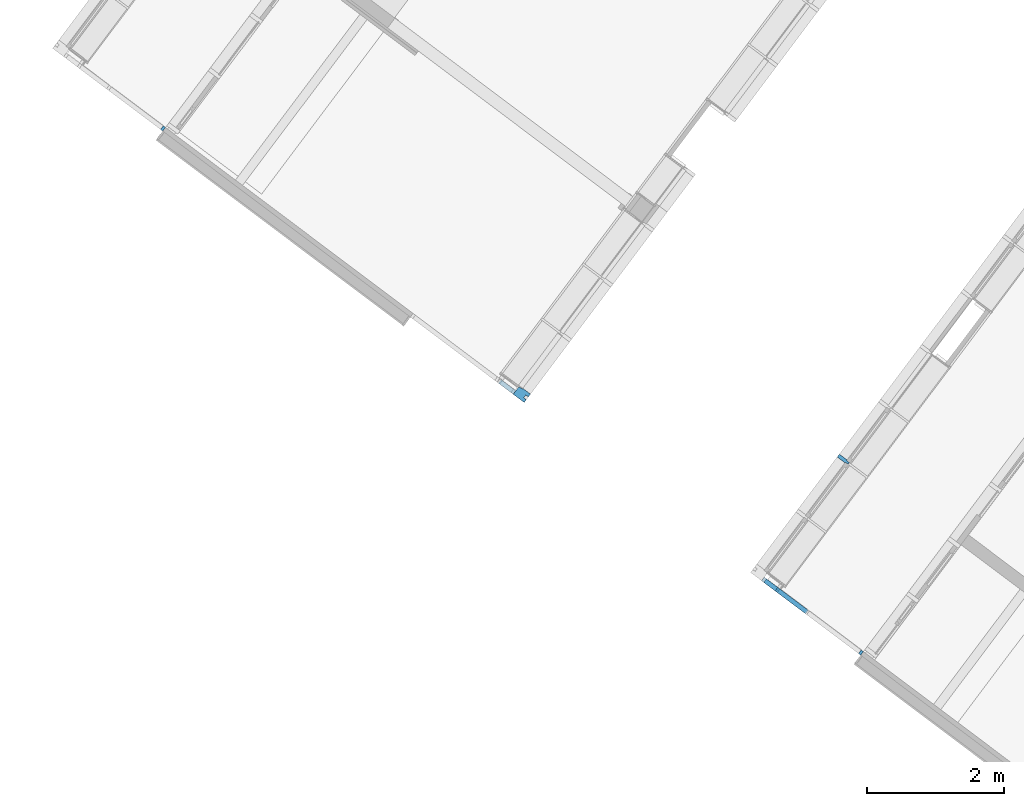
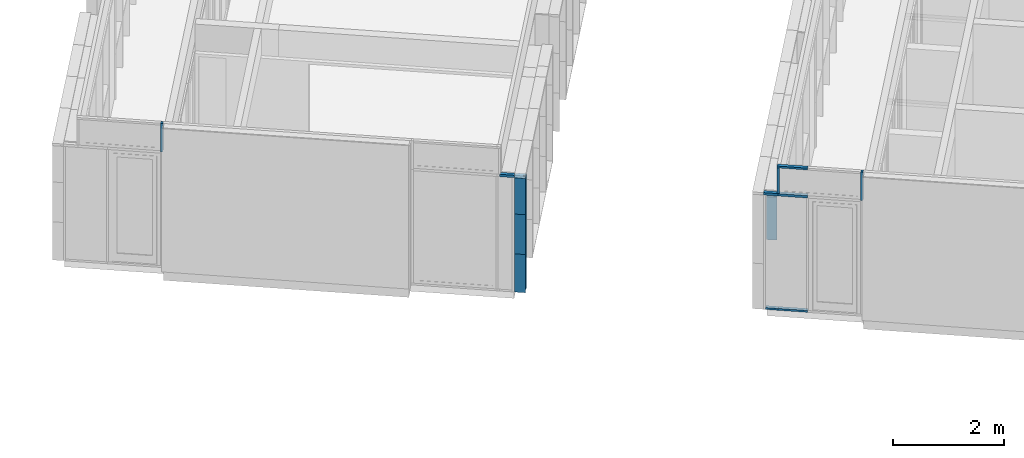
# One storey, part 75 of 243: 13 members, 5 elements without a shape of their own.
"""IFC2X3 building model written with IfcOpenShell, lengths in metres."""

from ifc_helpers import new_model, entity, si_unit, converted_unit, derived_unit, direction, frame, frame_2d, origin, place, context, subcontext, project, spatial, polyline, rectangle, outline, extrude, source, transform, mapped, material, type_object, type_shapes, element, aggregate, save


model = new_model("IFC2X3")

# Units and contexts
model_context = context("Model", 3, precision=1e-05, world=origin(), true_north=direction((6.123031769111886e-17, 1.0)))
body_context = subcontext(model_context, "Body", "Model", "MODEL_VIEW")
ifc_project = project(units=[si_unit("LENGTHUNIT", "METRE"), si_unit("AREAUNIT", "SQUARE_METRE"), si_unit("VOLUMEUNIT", "CUBIC_METRE"), converted_unit("PLANEANGLEUNIT", "DEGREE", entity("IfcRatioMeasure", 0.017453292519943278), si_unit("PLANEANGLEUNIT", "RADIAN"), dimensions=[0, 0, 0, 0, 0, 0, 0]), si_unit("MASSUNIT", "GRAM", prefix="KILO"), derived_unit("MASSDENSITYUNIT", [(si_unit("MASSUNIT", "GRAM", prefix="KILO"), 1), (si_unit("LENGTHUNIT", "METRE"), -3)]), derived_unit("IONCONCENTRATIONUNIT", [(si_unit("MASSUNIT", "GRAM", prefix="KILO"), 1), (si_unit("LENGTHUNIT", "METRE"), -3)]), derived_unit("MOMENTOFINERTIAUNIT", [(si_unit("LENGTHUNIT", "METRE"), 4)]), si_unit("TIMEUNIT", "SECOND"), si_unit("FREQUENCYUNIT", "HERTZ"), si_unit("THERMODYNAMICTEMPERATUREUNIT", "DEGREE_CELSIUS"), derived_unit("THERMALTRANSMITTANCEUNIT", [(si_unit("MASSUNIT", "GRAM", prefix="KILO"), 1), (si_unit("THERMODYNAMICTEMPERATUREUNIT", "KELVIN"), -1), (si_unit("TIMEUNIT", "SECOND"), -3)]), derived_unit("THERMALCONDUCTANCEUNIT", [(si_unit("MASSUNIT", "GRAM", prefix="KILO"), 1), (si_unit("THERMODYNAMICTEMPERATUREUNIT", "KELVIN"), -1), (si_unit("TIMEUNIT", "SECOND"), -3), (si_unit("LENGTHUNIT", "METRE"), 1)]), derived_unit("VOLUMETRICFLOWRATEUNIT", [(si_unit("LENGTHUNIT", "METRE"), 3), (si_unit("TIMEUNIT", "SECOND"), -1)]), derived_unit("MASSFLOWRATEUNIT", [(si_unit("MASSUNIT", "GRAM", prefix="KILO"), 1), (si_unit("TIMEUNIT", "SECOND"), -1)]), derived_unit("ROTATIONALFREQUENCYUNIT", [(si_unit("TIMEUNIT", "SECOND"), -1)]), si_unit("ELECTRICCURRENTUNIT", "AMPERE"), si_unit("ELECTRICVOLTAGEUNIT", "VOLT"), si_unit("POWERUNIT", "WATT"), si_unit("FORCEUNIT", "NEWTON", prefix="KILO"), si_unit("ILLUMINANCEUNIT", "LUX"), si_unit("LUMINOUSFLUXUNIT", "LUMEN"), si_unit("LUMINOUSINTENSITYUNIT", "CANDELA"), derived_unit("USERDEFINED", [(si_unit("MASSUNIT", "GRAM", prefix="KILO"), -1), (si_unit("LENGTHUNIT", "METRE"), -2), (si_unit("TIMEUNIT", "SECOND"), 3), (si_unit("LUMINOUSFLUXUNIT", "LUMEN"), 1)]), derived_unit("USERDEFINED", [(si_unit("MASSUNIT", "GRAM", prefix="KILO"), 1), (si_unit("TIMEUNIT", "SECOND"), -3), (si_unit("LENGTHUNIT", "METRE"), 3), (si_unit("ELECTRICCURRENTUNIT", "AMPERE"), -2)]), derived_unit("SOUNDPOWERUNIT", [(si_unit("MASSUNIT", "GRAM", prefix="KILO"), 1), (si_unit("TIMEUNIT", "SECOND"), -3), (si_unit("LENGTHUNIT", "METRE"), 2)]), derived_unit("SOUNDPRESSUREUNIT", [(si_unit("MASSUNIT", "GRAM", prefix="KILO"), 1), (si_unit("LENGTHUNIT", "METRE"), -1), (si_unit("TIMEUNIT", "SECOND"), -2)]), derived_unit("LINEARVELOCITYUNIT", [(si_unit("LENGTHUNIT", "METRE"), 1), (si_unit("TIMEUNIT", "SECOND"), -1)]), si_unit("PRESSUREUNIT", "PASCAL"), derived_unit("USERDEFINED", [(si_unit("MASSUNIT", "GRAM", prefix="KILO"), 1), (si_unit("LENGTHUNIT", "METRE"), -2), (si_unit("TIMEUNIT", "SECOND"), -2)]), derived_unit("LINEARFORCEUNIT", [(si_unit("MASSUNIT", "GRAM", prefix="KILO"), 1), (si_unit("TIMEUNIT", "SECOND"), -2)]), derived_unit("PLANARFORCEUNIT", [(si_unit("MASSUNIT", "GRAM", prefix="KILO"), 1), (si_unit("LENGTHUNIT", "METRE"), -1), (si_unit("TIMEUNIT", "SECOND"), -2)]), derived_unit("SPECIFICHEATCAPACITYUNIT", [(si_unit("THERMODYNAMICTEMPERATUREUNIT", "KELVIN"), -1), (si_unit("LENGTHUNIT", "METRE"), 2), (si_unit("TIMEUNIT", "SECOND"), -2)]), derived_unit("HEATINGVALUEUNIT", [(si_unit("LENGTHUNIT", "METRE"), 2), (si_unit("TIMEUNIT", "SECOND"), -2)]), derived_unit("VAPORPERMEABILITYUNIT", [(si_unit("LENGTHUNIT", "METRE"), -1), (si_unit("TIMEUNIT", "SECOND"), 1)]), derived_unit("DYNAMICVISCOSITYUNIT", [(si_unit("MASSUNIT", "GRAM", prefix="KILO"), 1), (si_unit("TIMEUNIT", "SECOND"), -1), (si_unit("LENGTHUNIT", "METRE"), -1)]), derived_unit("THERMALEXPANSIONCOEFFICIENTUNIT", [(si_unit("THERMODYNAMICTEMPERATUREUNIT", "KELVIN"), -1)]), derived_unit("MODULUSOFELASTICITYUNIT", [(si_unit("MASSUNIT", "GRAM", prefix="KILO"), 1), (si_unit("LENGTHUNIT", "METRE"), -1), (si_unit("TIMEUNIT", "SECOND"), -2)]), derived_unit("ISOTHERMALMOISTURECAPACITYUNIT", [(si_unit("LENGTHUNIT", "METRE"), 3), (si_unit("MASSUNIT", "GRAM", prefix="KILO"), -1)]), derived_unit("MOISTUREDIFFUSIVITYUNIT", [(si_unit("TIMEUNIT", "SECOND"), -1), (si_unit("LENGTHUNIT", "METRE"), 2)])], contexts=[model_context])

# Site, building, storey
site_placement = place(None, frame((0.0, 0.0, 235.0), z_axis=(0.0, 0.0, 1.0), x_axis=(-0.7996477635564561, 0.6004693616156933, 0.0)))
site = spatial("IfcSite", under=ifc_project, at=site_placement, Name="Default", CompositionType="ELEMENT")
building_placement = place(site_placement, origin())
building = spatial("IfcBuilding", under=site, at=building_placement, CompositionType="ELEMENT")
storey_placement = place(building_placement, origin())
storey = spatial("IfcBuildingStorey", under=building, at=storey_placement, Name="P0- Escola", CompositionType="ELEMENT", Elevation=0.0)

# Curtain wall, members
curtain_wall_type_1 = type_object("IfcCurtainWallType", Name="Muro cortina:MC- EXT- MC2", PredefinedType="NOTDEFINED")
curtain_wall_1_placement = place(storey_placement, origin())
curtain_wall_1 = element("IfcCurtainWall", 1, at=curtain_wall_1_placement, inside=storey, type_object=curtain_wall_type_1, Name="Muro cortina:MC- EXT- MC2", ObjectType="Muro cortina:MC- EXT- MC2")
ifc_material = material(Name="_Alumini- T1- Perfil")
member_type_1 = type_object("IfcMemberType", Name="Montante rectangular:MC- Alu- 140x52,5 cm- Fa patis- Cantonada", PredefinedType="MULLION", material=ifc_material)
shared_shape_1 = source(origin(), body_context, "Body", "SweptSolid", [
    extrude(outline(polyline([(-0.09566666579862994, -0.05708333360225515), (0.04333333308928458, -0.05708333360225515), (0.04333333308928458, -0.0458333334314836), (0.09433333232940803, -0.04583333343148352), (0.09433333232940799, -0.03083333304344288), (0.10433333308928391, -0.03083333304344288), (0.10433333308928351, 0.09541666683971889), (-0.09566666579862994, 0.09541666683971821), (-0.09566666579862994, 0.042916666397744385), (-0.05066666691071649, 0.042916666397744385), (-0.050666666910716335, -0.004583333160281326), (-0.09566666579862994, -0.004583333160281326), (-0.09566666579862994, -0.05708333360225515)])), frame((-0.09541666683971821, 0.04433333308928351, -0.8400000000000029), z_axis=(0.0, 0.0, 1.0), x_axis=(0.0, -1.0, 0.0)), (0.0, 0.0, 1.0), 0.8400000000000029),
])
type_shapes(member_type_1, [shared_shape_1])
member_1_placement = place(curtain_wall_1_placement, frame((41.04514768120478, -20.28894175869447, 0.8200000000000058), z_axis=(0.0, 0.0, 1.0), x_axis=(0.0, 1.0, 0.0)))
member_1 = element("IfcMember", 2, at=member_1_placement, type_object=member_type_1, material=ifc_material, Name="Montante rectangular:MC- Alu- 140x52,5 cm- Fa patis- Cantonada", ObjectType="Montante rectangular:MC- Alu- 140x52,5 cm- Fa patis- Cantonada", context=body_context, shape_type="MappedRepresentation", body=[
    mapped(shared_shape_1, transform((0.0, 0.0, 0.0), scale=1.0)),
])
member_type_2 = type_object("IfcMemberType", Name="Montante rectangular:MC- Alu- 140x52,5 cm- Fa patis- Cantonada", PredefinedType="MULLION", material=ifc_material)
shared_shape_2 = source(origin(), body_context, "Body", "SweptSolid", [
    extrude(outline(polyline([(-0.09566666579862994, -0.05708333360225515), (0.04333333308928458, -0.05708333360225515), (0.04333333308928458, -0.0458333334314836), (0.09433333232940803, -0.04583333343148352), (0.09433333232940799, -0.03083333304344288), (0.10433333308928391, -0.03083333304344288), (0.10433333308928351, 0.09541666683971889), (-0.09566666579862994, 0.09541666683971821), (-0.09566666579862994, 0.042916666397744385), (-0.05066666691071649, 0.042916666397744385), (-0.050666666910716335, -0.004583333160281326), (-0.09566666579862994, -0.004583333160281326), (-0.09566666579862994, -0.05708333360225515)])), frame((-0.09541666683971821, 0.04433333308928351, -0.7974999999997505), z_axis=(0.0, 0.0, 1.0), x_axis=(0.0, -1.0, 0.0)), (0.0, 0.0, 1.0), 0.7974999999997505),
])
type_shapes(member_type_2, [shared_shape_2])
member_2_placement = place(curtain_wall_1_placement, frame((41.04514768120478, -20.28894175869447, 2.4924999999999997), z_axis=(0.0, 0.0, 1.0), x_axis=(0.0, 1.0, 0.0)))
member_2 = element("IfcMember", 3, at=member_2_placement, type_object=member_type_2, material=ifc_material, Name="Montante rectangular:MC- Alu- 140x52,5 cm- Fa patis- Cantonada", ObjectType="Montante rectangular:MC- Alu- 140x52,5 cm- Fa patis- Cantonada", context=body_context, shape_type="MappedRepresentation", body=[
    mapped(shared_shape_2, transform((0.0, 0.0, 0.0), scale=1.0)),
])
member_type_3 = type_object("IfcMemberType", Name="Montante rectangular:MC- Alu- 140x52,5 cm- Fa patis- Cantonada", PredefinedType="MULLION", material=ifc_material)
shared_shape_3 = source(origin(), body_context, "Body", "SweptSolid", [
    extrude(outline(polyline([(-0.09566666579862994, -0.05708333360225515), (0.04333333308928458, -0.05708333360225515), (0.04333333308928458, -0.0458333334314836), (0.09433333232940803, -0.04583333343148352), (0.09433333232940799, -0.03083333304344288), (0.10433333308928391, -0.03083333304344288), (0.10433333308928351, 0.09541666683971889), (-0.09566666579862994, 0.09541666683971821), (-0.09566666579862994, 0.042916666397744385), (-0.05066666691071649, 0.042916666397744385), (-0.050666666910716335, -0.004583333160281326), (-0.09566666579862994, -0.004583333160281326), (-0.09566666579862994, -0.05708333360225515)])), frame((-0.09541666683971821, 0.04433333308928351, -0.8750000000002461), z_axis=(0.0, 0.0, 1.0), x_axis=(0.0, -1.0, 0.0)), (0.0, 0.0, 1.0), 0.8750000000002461),
])
type_shapes(member_type_3, [shared_shape_3])
member_3_placement = place(curtain_wall_1_placement, frame((41.04514768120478, -20.28894175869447, 1.6950000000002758), z_axis=(0.0, 0.0, 1.0), x_axis=(0.0, 1.0, 0.0)))
member_3 = element("IfcMember", 4, at=member_3_placement, type_object=member_type_3, material=ifc_material, Name="Montante rectangular:MC- Alu- 140x52,5 cm- Fa patis- Cantonada", ObjectType="Montante rectangular:MC- Alu- 140x52,5 cm- Fa patis- Cantonada", context=body_context, shape_type="MappedRepresentation", body=[
    mapped(shared_shape_3, transform((0.0, 0.0, 0.0), scale=1.0)),
])
aggregate(curtain_wall_1, [member_1, member_2, member_3])

# Curtain wall, member
curtain_wall_type_2 = type_object("IfcCurtainWallType", Name="Muro cortina:MC- EXT- AL1- Fa porxo", PredefinedType="NOTDEFINED")
curtain_wall_2_placement = place(storey_placement, origin())
curtain_wall_2 = element("IfcCurtainWall", 5, at=curtain_wall_2_placement, inside=storey, type_object=curtain_wall_type_2, Name="Muro cortina:MC- EXT- AL1- Fa porxo", ObjectType="Muro cortina:MC- EXT- AL1- Fa porxo")
member_type_4 = type_object("IfcMemberType", Name="Montante rectangular:MC- Alu- 65x41 cm- Fa Porxo- Centre", PredefinedType="MULLION", material=ifc_material)
shared_shape_4 = source(origin(), body_context, "Body", "SweptSolid", [
    extrude(rectangle(XDim=0.06500000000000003, YDim=0.041000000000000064, at=frame_2d((3.469446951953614e-18, -5.204170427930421e-18), x_axis=(1.0, 0.0))), frame((-0.020499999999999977, -0.032499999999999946, -0.2256666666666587), z_axis=(0.0, 0.0, 1.0), x_axis=(0.0, -1.0, 0.0)), (0.0, 0.0, 1.0), 0.22566666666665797),
])
type_shapes(member_type_4, [shared_shape_4])
member_4_placement = place(curtain_wall_2_placement, frame((36.54414768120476, -20.28894175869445, -0.020000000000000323), z_axis=(1.0, 0.0, 0.0), x_axis=(0.0, 0.0, -1.0)))
member_4 = element("IfcMember", 6, at=member_4_placement, type_object=member_type_4, material=ifc_material, Name="Montante rectangular:MC- Alu- 65x41 cm- Fa Porxo- Centre", ObjectType="Montante rectangular:MC- Alu- 65x41 cm- Fa Porxo- Centre", context=body_context, shape_type="MappedRepresentation", body=[
    mapped(shared_shape_4, transform((0.0, 0.0, 0.0), scale=1.0)),
])

curtain_wall_3_placement = place(storey_placement, origin())
curtain_wall_3 = element("IfcCurtainWall", 7, at=curtain_wall_3_placement, inside=storey, type_object=curtain_wall_type_2, Name="Muro cortina:MC- EXT- AL1- Fa porxo", ObjectType="Muro cortina:MC- EXT- AL1- Fa porxo")
member_type_5 = type_object("IfcMemberType", Name="Montante rectangular:MC- Alu- 65x41 cm- Fa Porxo- Centre", PredefinedType="MULLION", material=ifc_material)
shared_shape_5 = source(origin(), body_context, "Body", "SweptSolid", [
    extrude(rectangle(XDim=0.06500000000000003, YDim=0.041000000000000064, at=frame_2d((0.0, -8.673617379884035e-18), x_axis=(1.0, 0.0))), frame((-0.020500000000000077, -0.032499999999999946, -0.6312500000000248), z_axis=(0.0, 0.0, 1.0), x_axis=(0.0, -1.0, 0.0)), (0.0, 0.0, 1.0), 0.6312500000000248),
])
type_shapes(member_type_5, [shared_shape_5])
member_5_placement = place(curtain_wall_3_placement, frame((47.48014768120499, -20.288941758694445, 2.51875), z_axis=(0.0, 0.0, -1.0), x_axis=(-1.0, 0.0, 0.0)))
member_5 = element("IfcMember", 8, at=member_5_placement, type_object=member_type_5, material=ifc_material, Name="Montante rectangular:MC- Alu- 65x41 cm- Fa Porxo- Centre", ObjectType="Montante rectangular:MC- Alu- 65x41 cm- Fa Porxo- Centre", context=body_context, shape_type="MappedRepresentation", body=[
    mapped(shared_shape_5, transform((0.0, 0.0, 0.0), scale=1.0)),
])
aggregate(curtain_wall_3, [member_5])

# Member
member_6_placement = place(curtain_wall_2_placement, frame((34.780147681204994, -20.288941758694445, 2.51875), z_axis=(0.0, 0.0, -1.0), x_axis=(-1.0, 0.0, 0.0)))
member_6 = element("IfcMember", 9, at=member_6_placement, type_object=member_type_5, material=ifc_material, Name="Montante rectangular:MC- Alu- 65x41 cm- Fa Porxo- Centre", ObjectType="Montante rectangular:MC- Alu- 65x41 cm- Fa Porxo- Centre", context=body_context, shape_type="MappedRepresentation", body=[
    mapped(shared_shape_5, transform((0.0, 0.0, 0.0), scale=1.0)),
])

member_type_6 = type_object("IfcMemberType", Name="Montante rectangular:MC- Alu- 65x52,5 cm- Fa Porxo- Centre", PredefinedType="MULLION", material=ifc_material)
shared_shape_6 = source(origin(), body_context, "Body", "SweptSolid", [
    extrude(rectangle(XDim=0.06500000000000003, YDim=0.05300000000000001, at=frame_2d((3.469446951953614e-18, 3.469446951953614e-18), x_axis=(1.0, 0.0))), frame((0.0, -0.03249999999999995, -0.266666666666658), z_axis=(0.0, 0.0, 1.0), x_axis=(0.0, -1.0, 0.0)), (0.0, 0.0, 1.0), 0.266666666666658),
])
type_shapes(member_type_6, [shared_shape_6])
member_7_placement = place(curtain_wall_2_placement, frame((36.31848101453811, -20.28894175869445, 2.51875), z_axis=(-1.0, 0.0, 0.0), x_axis=(0.0, 0.0, 1.0)))
member_7 = element("IfcMember", 10, at=member_7_placement, type_object=member_type_6, material=ifc_material, Name="Montante rectangular:MC- Alu- 65x52,5 cm- Fa Porxo- Centre", ObjectType="Montante rectangular:MC- Alu- 65x52,5 cm- Fa Porxo- Centre", context=body_context, shape_type="MappedRepresentation", body=[
    mapped(shared_shape_6, transform((0.0, 0.0, 0.0), scale=1.0)),
])

member_type_7 = type_object("IfcMemberType", Name="Montante rectangular:MC- Alu- 65x41 cm- Fa Porxo- Centre", PredefinedType="MULLION", material=ifc_material)
shared_shape_7 = source(origin(), body_context, "Body", "SweptSolid", [
    extrude(rectangle(XDim=0.06500000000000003, YDim=0.041000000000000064, at=frame_2d((0.0, -8.673617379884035e-18), x_axis=(1.0, 0.0))), frame((-0.020500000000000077, -0.032499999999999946, -0.5538333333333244), z_axis=(0.0, 0.0, 1.0), x_axis=(0.0, -1.0, 0.0)), (0.0, 0.0, 1.0), 0.5538333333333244),
])
type_shapes(member_type_7, [shared_shape_7])
member_8_placement = place(curtain_wall_2_placement, frame((35.78514768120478, -20.28894175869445, 3.150000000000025), z_axis=(-1.0, 0.0, 0.0), x_axis=(0.0, 0.0, 1.0)))
member_8 = element("IfcMember", 11, at=member_8_placement, type_object=member_type_7, material=ifc_material, Name="Montante rectangular:MC- Alu- 65x41 cm- Fa Porxo- Centre", ObjectType="Montante rectangular:MC- Alu- 65x41 cm- Fa Porxo- Centre", context=body_context, shape_type="MappedRepresentation", body=[
    mapped(shared_shape_7, transform((0.0, 0.0, 0.0), scale=1.0)),
])

member_type_8 = type_object("IfcMemberType", Name="Montante rectangular:MC- Alu- 65x41 cm- Fa Porxo- Centre", PredefinedType="MULLION", material=ifc_material)
shared_shape_8 = source(origin(), body_context, "Body", "SweptSolid", [
    extrude(rectangle(XDim=0.06500000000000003, YDim=0.041000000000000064, at=frame_2d((3.469446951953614e-18, -5.204170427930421e-18), x_axis=(1.0, 0.0))), frame((-0.020499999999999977, -0.032499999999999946, -0.5333333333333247), z_axis=(0.0, 0.0, 1.0), x_axis=(0.0, -1.0, 0.0)), (0.0, 0.0, 1.0), 0.5333333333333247),
])
type_shapes(member_type_8, [shared_shape_8])
member_9_placement = place(curtain_wall_2_placement, frame((36.31848101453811, -20.28894175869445, -0.02000000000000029), z_axis=(1.0, 0.0, 0.0), x_axis=(0.0, 0.0, -1.0)))
member_9 = element("IfcMember", 12, at=member_9_placement, type_object=member_type_8, material=ifc_material, Name="Montante rectangular:MC- Alu- 65x41 cm- Fa Porxo- Centre", ObjectType="Montante rectangular:MC- Alu- 65x41 cm- Fa Porxo- Centre", context=body_context, shape_type="MappedRepresentation", body=[
    mapped(shared_shape_8, transform((0.0, 0.0, 0.0), scale=1.0)),
])

member_type_9 = type_object("IfcMemberType", Name="Montante rectangular:MC- Alu- 65x52,5 cm- Fa Porxo- Centre", PredefinedType="MULLION", material=ifc_material)
shared_shape_9 = source(origin(), body_context, "Body", "SweptSolid", [
    extrude(rectangle(XDim=0.06500000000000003, YDim=0.05300000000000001, at=frame_2d((3.469446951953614e-18, 3.469446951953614e-18), x_axis=(1.0, 0.0))), frame((0.0, -0.03249999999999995, -0.5333333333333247), z_axis=(0.0, 0.0, 1.0), x_axis=(0.0, -1.0, 0.0)), (0.0, 0.0, 1.0), 0.5333333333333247),
])
type_shapes(member_type_9, [shared_shape_9])
member_10_placement = place(curtain_wall_2_placement, frame((35.78514768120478, -20.28894175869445, 2.51875), z_axis=(-1.0, 0.0, 0.0), x_axis=(0.0, 0.0, 1.0)))
member_10 = element("IfcMember", 13, at=member_10_placement, type_object=member_type_9, material=ifc_material, Name="Montante rectangular:MC- Alu- 65x52,5 cm- Fa Porxo- Centre", ObjectType="Montante rectangular:MC- Alu- 65x52,5 cm- Fa Porxo- Centre", context=body_context, shape_type="MappedRepresentation", body=[
    mapped(shared_shape_9, transform((0.0, 0.0, 0.0), scale=1.0)),
])

member_type_10 = type_object("IfcMemberType", Name="Montante rectangular:MC- Alu- 65x41 cm- Fa Porxo- Centre", PredefinedType="MULLION", material=ifc_material)
shared_shape_10 = source(origin(), body_context, "Body", "SweptSolid", [
    extrude(rectangle(XDim=0.06500000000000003, YDim=0.04100000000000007, at=frame_2d((0.0, -8.673617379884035e-18), x_axis=(1.0, 0.0))), frame((0.0, -0.032499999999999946, -0.5637500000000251), z_axis=(0.0, 0.0, 1.0), x_axis=(0.0, -1.0, 0.0)), (0.0, 0.0, 1.0), 0.5637500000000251),
])
type_shapes(member_type_10, [shared_shape_10])
member_11_placement = place(curtain_wall_2_placement, frame((36.31848101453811, -20.28894175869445, 2.54525), z_axis=(0.0, 0.0, -1.0), x_axis=(-1.0, 0.0, 0.0)))
member_11 = element("IfcMember", 14, at=member_11_placement, type_object=member_type_10, material=ifc_material, Name="Montante rectangular:MC- Alu- 65x41 cm- Fa Porxo- Centre", ObjectType="Montante rectangular:MC- Alu- 65x41 cm- Fa Porxo- Centre", context=body_context, shape_type="MappedRepresentation", body=[
    mapped(shared_shape_10, transform((0.0, 0.0, 0.0), scale=1.0)),
])

aggregate(curtain_wall_2, [member_4, member_6, member_7, member_8, member_9, member_10, member_11])

# Curtain wall, member
curtain_wall_4_placement = place(storey_placement, origin())
curtain_wall_4 = element("IfcCurtainWall", 15, at=curtain_wall_4_placement, inside=storey, type_object=curtain_wall_type_2, Name="Muro cortina:MC- EXT- AL1- Fa porxo", ObjectType="Muro cortina:MC- EXT- AL1- Fa porxo")
member_type_11 = type_object("IfcMemberType", Name="Montante rectangular:MC- Alu- 65x52,5 cm- Fa Porxo- Centre", PredefinedType="MULLION", material=ifc_material)
shared_shape_11 = source(origin(), body_context, "Body", "SweptSolid", [
    extrude(rectangle(XDim=0.06500000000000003, YDim=0.053000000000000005, at=frame_2d((3.469446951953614e-18, 5.204170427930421e-18), x_axis=(1.0, 0.0))), frame((0.0, 0.03249999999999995, -0.26666666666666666), z_axis=(0.0, 0.0, 1.0), x_axis=(0.0, -1.0, 0.0)), (0.0, 0.0, 1.0), 0.26666666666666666),
])
type_shapes(member_type_11, [shared_shape_11])
member_12_placement = place(curtain_wall_4_placement, frame((41.371814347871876, -20.28894175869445, 2.51875), z_axis=(1.0, 0.0, 0.0), x_axis=(0.0, 0.0, 1.0)))
member_12 = element("IfcMember", 16, at=member_12_placement, type_object=member_type_11, material=ifc_material, Name="Montante rectangular:MC- Alu- 65x52,5 cm- Fa Porxo- Centre", ObjectType="Montante rectangular:MC- Alu- 65x52,5 cm- Fa Porxo- Centre", context=body_context, shape_type="MappedRepresentation", body=[
    mapped(shared_shape_11, transform((0.0, 0.0, 0.0), scale=1.0)),
])
aggregate(curtain_wall_4, [member_12])

curtain_wall_type_3 = type_object("IfcCurtainWallType", Name="Muro cortina:MC- EXT- MC5", PredefinedType="NOTDEFINED")
curtain_wall_5_placement = place(storey_placement, origin())
curtain_wall_5 = element("IfcCurtainWall", 17, at=curtain_wall_5_placement, inside=storey, type_object=curtain_wall_type_3, Name="Muro cortina:MC- EXT- MC5", ObjectType="Muro cortina:MC- EXT- MC5")
member_type_12 = type_object("IfcMemberType", Name="Montante rectangular:MC- Alu- 140x52,5 cm- Fa patis- Centre", PredefinedType="MULLION", material=ifc_material)
shared_shape_12 = source(origin(), body_context, "Body", "SweptSolid", [
    extrude(outline(polyline([(-0.021999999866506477, -0.026250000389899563), (0.11699999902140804, -0.026250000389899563), (0.11699999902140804, 0.026250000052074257), (-0.02200000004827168, 0.026250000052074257), (-0.02200000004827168, 0.015000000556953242), (-0.07299999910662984, 0.015000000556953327), (-0.07299999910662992, -0.01500000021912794), (-0.021999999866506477, -0.01500000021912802), (-0.021999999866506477, -0.026250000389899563)])), frame((0.0, -0.022999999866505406, -0.9449999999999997), z_axis=(0.0, 0.0, 1.0), x_axis=(0.0, -1.0, 0.0)), (0.0, 0.0, 1.0), 0.9449999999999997),
])
type_shapes(member_type_12, [shared_shape_12])
member_13_placement = place(curtain_wall_5_placement, frame((36.6451476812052, -22.41519175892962, 0.035000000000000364), z_axis=(0.0, 0.0, -1.0), x_axis=(0.0, -1.0, 0.0)))
member_13 = element("IfcMember", 18, at=member_13_placement, type_object=member_type_12, material=ifc_material, Name="Montante rectangular:MC- Alu- 140x52,5 cm- Fa patis- Centre", ObjectType="Montante rectangular:MC- Alu- 140x52,5 cm- Fa patis- Centre", context=body_context, shape_type="MappedRepresentation", body=[
    mapped(shared_shape_12, transform((0.0, 0.0, 0.0), scale=1.0)),
])
aggregate(curtain_wall_5, [member_13])

save(model, "model.ifc")
